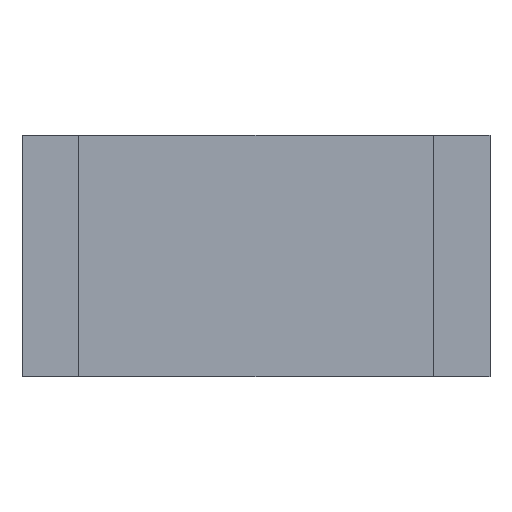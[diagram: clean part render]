
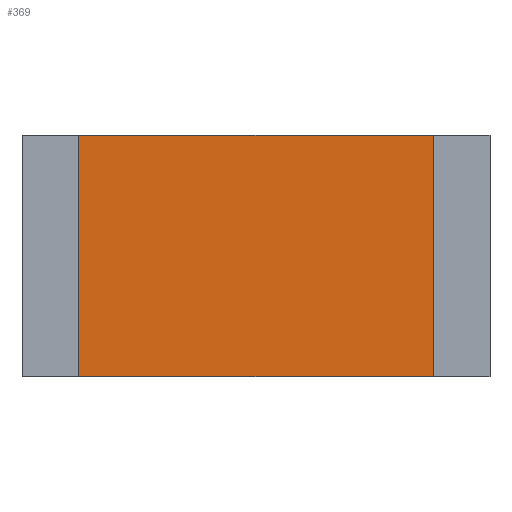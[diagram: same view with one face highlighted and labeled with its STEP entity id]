
A CAD part, top view. The second image highlights one B-rep face of the part: STEP entity #369.
In plain terms, the highlighted planar face has unit normal (0, 0, 1).
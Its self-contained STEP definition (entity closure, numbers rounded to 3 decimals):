
#369=ADVANCED_FACE('',(#766),#768,.F.);
#766=FACE_BOUND('',#767,.T.);
#767=EDGE_LOOP('',(#1050,#1051,#1052,#1053));
#768=PLANE('',#769);
#769=AXIS2_PLACEMENT_3D('',#770,#771,#772);
#770=CARTESIAN_POINT('',(0.,0.,0.6));
#771=DIRECTION('',(0.,0.,-1.));
#772=DIRECTION('',(1.,0.,0.));
#1050=ORIENTED_EDGE('',*,*,#1226,.F.);
#1051=ORIENTED_EDGE('',*,*,#1223,.F.);
#1052=ORIENTED_EDGE('',*,*,#1220,.F.);
#1053=ORIENTED_EDGE('',*,*,#1216,.F.);
#1216=EDGE_CURVE('',#1379,#1380,#1381,.T.);
#1220=EDGE_CURVE('',#1380,#1387,#1388,.T.);
#1223=EDGE_CURVE('',#1387,#1392,#1393,.T.);
#1226=EDGE_CURVE('',#1392,#1379,#1397,.T.);
#1379=VERTEX_POINT('',#1704);
#1380=VERTEX_POINT('',#1705);
#1381=LINE('',#1706,#1707);
#1387=VERTEX_POINT('',#1720);
#1388=LINE('',#1721,#1722);
#1392=VERTEX_POINT('',#1731);
#1393=LINE('',#1732,#1733);
#1397=LINE('',#1742,#1743);
#1704=CARTESIAN_POINT('',(2.35,-1.6,0.6));
#1705=CARTESIAN_POINT('',(-2.35,-1.6,0.6));
#1706=CARTESIAN_POINT('',(2.35,-1.6,0.6));
#1707=VECTOR('',#1708,1.);
#1708=DIRECTION('',(-1.,0.,0.));
#1720=CARTESIAN_POINT('',(-2.35,1.6,0.6));
#1721=CARTESIAN_POINT('',(-2.35,-1.6,0.6));
#1722=VECTOR('',#1723,1.);
#1723=DIRECTION('',(0.,1.,0.));
#1731=CARTESIAN_POINT('',(2.35,1.6,0.6));
#1732=CARTESIAN_POINT('',(-2.35,1.6,0.6));
#1733=VECTOR('',#1734,1.);
#1734=DIRECTION('',(1.,0.,0.));
#1742=CARTESIAN_POINT('',(2.35,1.6,0.6));
#1743=VECTOR('',#1744,1.);
#1744=DIRECTION('',(0.,-1.,0.));
